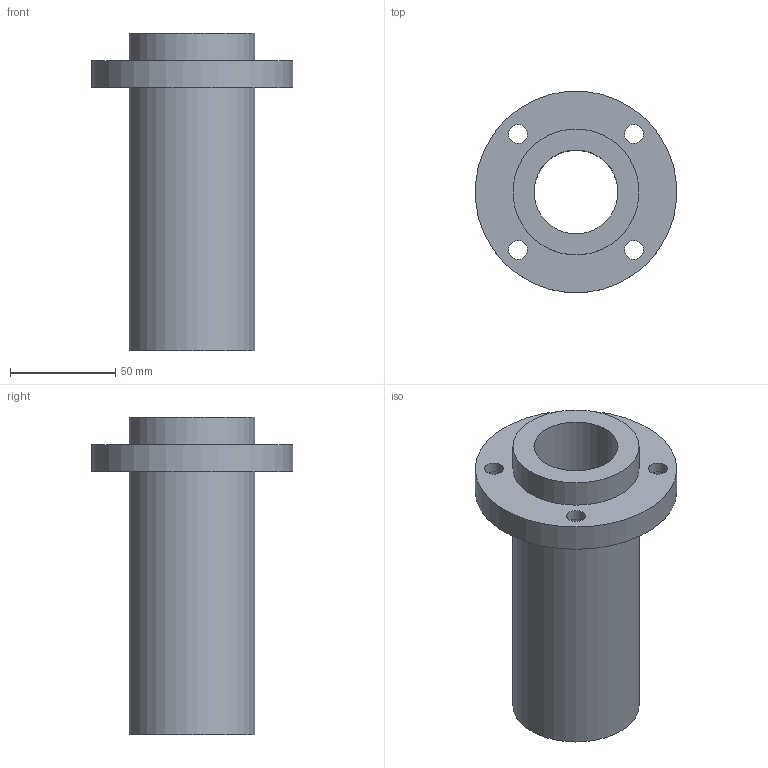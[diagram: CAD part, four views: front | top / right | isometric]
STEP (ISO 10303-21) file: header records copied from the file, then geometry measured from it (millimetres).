
FILE_DESCRIPTION(/* description */ (''),/* implementation_level */ '2;1');
FILE_NAME(/* name */ 'LMFP40LUU',/* time_stamp */ '2019-07-03T13:01:13+02:00',/* author */ ('VĂ©gh MĂˇtĂ©'),/* organization */ ('Bearing Kft'),/* preprocessor_version */ 'ST-DEVELOPER v16.7',/* originating_system */ 'DEX',/* authorisation */ $);
FILE_SCHEMA (('AUTOMOTIVE_DESIGN {1 0 10303 214 3 1 1}'));
Length unit declared in the file: millimetre
Products named in the file (1): LMFP40LUU
Bounding box: 95.63 x 95.63 x 151 mm (x, y, z)
Volume: 288284.3 mm3; surface area: 62383.9 mm2
Topology: 1 solids, 1 shells, 341 faces, 853 edges, 570 vertices
Faces by surface type: plane 268, bspline 59, cylinder 14
Full cylindrical faces by diameter (mm): 9 x4, 14 x4, 40 x1, 60 x2, 96 x1
Entity records: 13322 total; most frequent: CARTESIAN_POINT 5551, ORIENTED_EDGE 1668, DIRECTION 1310, EDGE_CURVE 834, LINE 688, VECTOR 688, VERTEX_POINT 566, EDGE_LOOP 422
